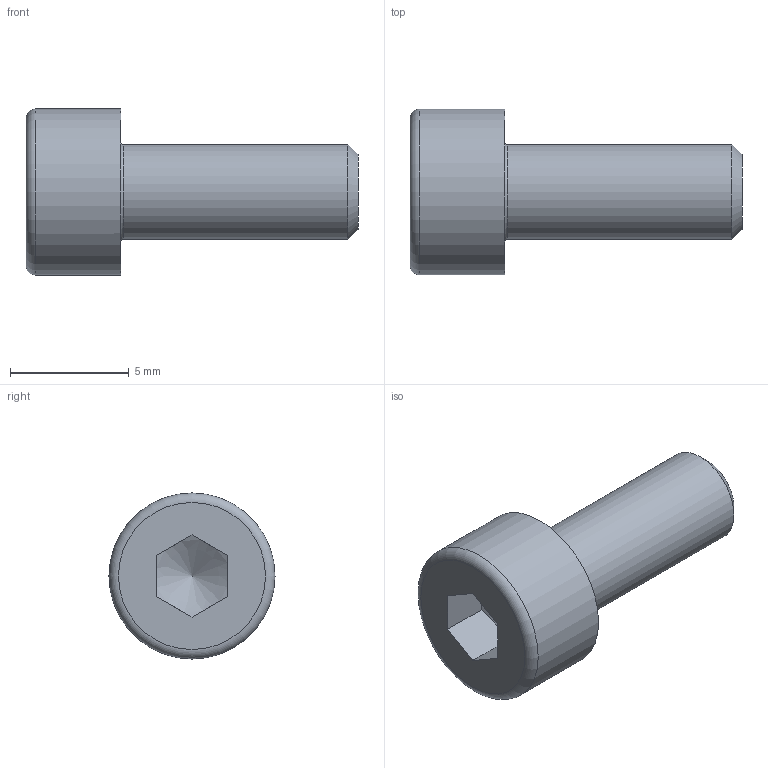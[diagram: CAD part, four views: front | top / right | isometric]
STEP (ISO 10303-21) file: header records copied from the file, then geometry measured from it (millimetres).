
FILE_DESCRIPTION(/* description */ ('6각머리 태핑 나사'),/* implementation_level */ '2;1');
FILE_NAME(/* name */ '',/* time_stamp */ '2024-10-25T13:29:46+09:00',/* author */ ('jhkim'),/* organization */ (''),/* preprocessor_version */ 'ST-DEVELOPER v20',/* originating_system */ 'Autodesk Inventor 2025',/* authorisation */ '');
FILE_SCHEMA (('AUTOMOTIVE_DESIGN { 1 0 10303 214 3 1 1 }'));
Length unit declared in the file: millimetre
Products named in the file (1): 육각 소켓 머리 볼트 
M4x10
Bounding box: 14 x 7 x 7 mm (x, y, z)
Volume: 259.2 mm3; surface area: 305.7 mm2
Topology: 1 solids, 1 shells, 15 faces, 36 edges, 24 vertices
Faces by surface type: plane 9, torus 2, cylinder 2, cone 2
Full cylindrical faces by diameter (mm): 4 x1, 7 x1
Entity records: 473 total; most frequent: CARTESIAN_POINT 89, DIRECTION 72, ORIENTED_EDGE 70, EDGE_CURVE 35, AXIS2_PLACEMENT_3D 28, VERTEX_POINT 24, EDGE_LOOP 17, LINE 16
